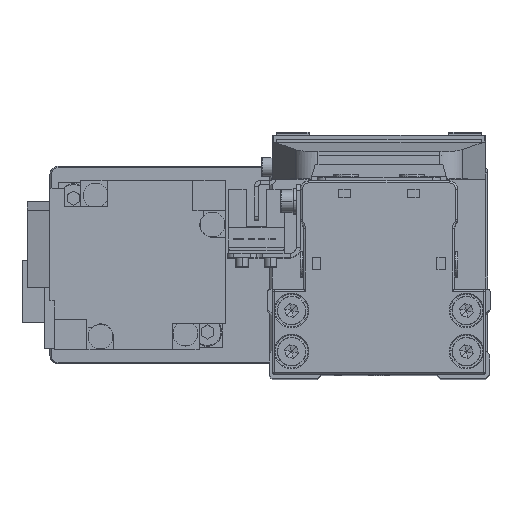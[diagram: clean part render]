
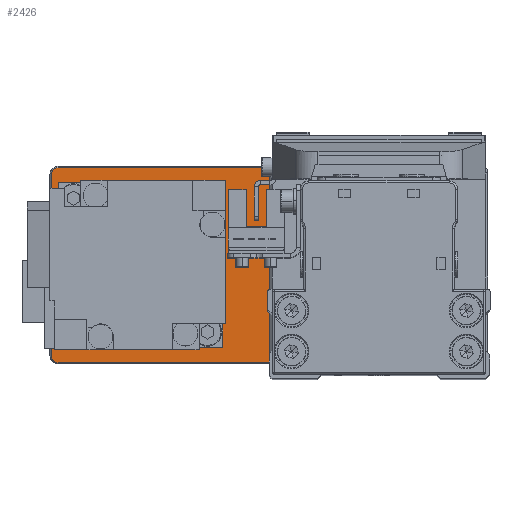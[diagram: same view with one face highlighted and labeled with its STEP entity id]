
A CAD part, top view. The second image highlights one B-rep face of the part: STEP entity #2426.
In plain terms, the highlighted planar face has unit normal (0, 0, 1).
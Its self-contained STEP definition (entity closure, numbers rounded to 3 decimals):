
#131 = EDGE_CURVE ( 'NONE', #10204, #9096, #23579, .T. ) ;
#446 = CARTESIAN_POINT ( 'NONE',  ( 30., 0., 5. ) ) ;
#664 = ORIENTED_EDGE ( 'NONE', *, *, #13674, .T. ) ;
#1184 = CARTESIAN_POINT ( 'NONE',  ( 50., 23.7, 5. ) ) ;
#1401 = DIRECTION ( 'NONE',  ( 1., 0., 0. ) ) ;
#1427 = VECTOR ( 'NONE', #16038, 1000. ) ;
#1575 = CARTESIAN_POINT ( 'NONE',  ( -50., -23.7, 5. ) ) ;
#1641 = CIRCLE ( 'NONE', #24034, 1.7 ) ;
#2347 = DIRECTION ( 'NONE',  ( 1., 0., 0. ) ) ;
#2426 = ADVANCED_FACE ( 'NONE', ( #8325, #20592, #32805 ), #5342, .T. ) ;
#2896 = DIRECTION ( 'NONE',  ( 1., 0., 0. ) ) ;
#3422 = CARTESIAN_POINT ( 'NONE',  ( -50., 23.7, 5. ) ) ;
#3805 = CARTESIAN_POINT ( 'NONE',  ( -51.7, -22., 5. ) ) ;
#4648 = CIRCLE ( 'NONE', #27067, 12.8 ) ;
#5342 = PLANE ( 'NONE',  #31360 ) ;
#5449 = VERTEX_POINT ( 'NONE', #14776 ) ;
#5505 = DIRECTION ( 'NONE',  ( 1., 0., 0. ) ) ;
#5538 = EDGE_CURVE ( 'NONE', #19522, #11580, #21398, .T. ) ;
#5976 = CARTESIAN_POINT ( 'NONE',  ( 51.7, 22., 5. ) ) ;
#5981 = EDGE_CURVE ( 'NONE', #28304, #19380, #33344, .T. ) ;
#6129 = DIRECTION ( 'NONE',  ( 0., 1., 0. ) ) ;
#6762 = CARTESIAN_POINT ( 'NONE',  ( -51.7, 22., 5. ) ) ;
#7275 = CARTESIAN_POINT ( 'NONE',  ( 17.2, 0., 5. ) ) ;
#7600 = ORIENTED_EDGE ( 'NONE', *, *, #5981, .T. ) ;
#8325 = FACE_BOUND ( 'NONE', #19034, .T. ) ;
#8979 = VECTOR ( 'NONE', #6129, 1000. ) ;
#9096 = VERTEX_POINT ( 'NONE', #1575 ) ;
#9196 = VERTEX_POINT ( 'NONE', #38799 ) ;
#9212 = DIRECTION ( 'NONE',  ( 0., 0., 1. ) ) ;
#9899 = ORIENTED_EDGE ( 'NONE', *, *, #30198, .T. ) ;
#10204 = VERTEX_POINT ( 'NONE', #14891 ) ;
#10241 = DIRECTION ( 'NONE',  ( 1., 0., 0. ) ) ;
#10549 = CARTESIAN_POINT ( 'NONE',  ( 30., 0., 5. ) ) ;
#10571 = DIRECTION ( 'NONE',  ( 1., 0., 0. ) ) ;
#10620 = VECTOR ( 'NONE', #10571, 1000. ) ;
#10742 = AXIS2_PLACEMENT_3D ( 'NONE', #16596, #28841, #1401 ) ;
#10801 = EDGE_CURVE ( 'NONE', #9196, #5449, #32337, .T. ) ;
#11355 = ORIENTED_EDGE ( 'NONE', *, *, #19001, .T. ) ;
#11580 = VERTEX_POINT ( 'NONE', #5976 ) ;
#11678 = VERTEX_POINT ( 'NONE', #6762 ) ;
#12657 = DIRECTION ( 'NONE',  ( 0., 0., -1. ) ) ;
#12732 = CARTESIAN_POINT ( 'NONE',  ( -28., 0., 5. ) ) ;
#13674 = EDGE_CURVE ( 'NONE', #30482, #11678, #1641, .T. ) ;
#13754 = CARTESIAN_POINT ( 'NONE',  ( -50., 23.7, 5. ) ) ;
#14495 = EDGE_CURVE ( 'NONE', #9096, #32549, #25826, .T. ) ;
#14564 = ORIENTED_EDGE ( 'NONE', *, *, #37433, .T. ) ;
#14570 = AXIS2_PLACEMENT_3D ( 'NONE', #16287, #37685, #10241 ) ;
#14769 = VECTOR ( 'NONE', #15641, 1000. ) ;
#14776 = CARTESIAN_POINT ( 'NONE',  ( -17.7, 0., 5. ) ) ;
#14891 = CARTESIAN_POINT ( 'NONE',  ( -51.7, -22., 5. ) ) ;
#15061 = AXIS2_PLACEMENT_3D ( 'NONE', #12732, #24961, #37171 ) ;
#15627 = AXIS2_PLACEMENT_3D ( 'NONE', #36664, #9212, #21460 ) ;
#15641 = DIRECTION ( 'NONE',  ( -1., 0., 0. ) ) ;
#16038 = DIRECTION ( 'NONE',  ( 0., -1., 0. ) ) ;
#16071 = AXIS2_PLACEMENT_3D ( 'NONE', #446, #12657, #24877 ) ;
#16287 = CARTESIAN_POINT ( 'NONE',  ( 50., -22., 5. ) ) ;
#16596 = CARTESIAN_POINT ( 'NONE',  ( -28., 0., 5. ) ) ;
#17575 = CARTESIAN_POINT ( 'NONE',  ( 0., 0., 5. ) ) ;
#18143 = CARTESIAN_POINT ( 'NONE',  ( -50., 22., 5. ) ) ;
#18689 = EDGE_LOOP ( 'NONE', ( #36312, #11355, #24198, #9899, #36352, #664, #20338, #31764 ) ) ;
#19001 = EDGE_CURVE ( 'NONE', #32549, #19522, #31829, .T. ) ;
#19034 = EDGE_LOOP ( 'NONE', ( #14564, #7600 ) ) ;
#19049 = CARTESIAN_POINT ( 'NONE',  ( 42.8, 0., 5. ) ) ;
#19380 = VERTEX_POINT ( 'NONE', #19049 ) ;
#19494 = EDGE_CURVE ( 'NONE', #5449, #9196, #28032, .T. ) ;
#19522 = VERTEX_POINT ( 'NONE', #35238 ) ;
#20338 = ORIENTED_EDGE ( 'NONE', *, *, #36847, .T. ) ;
#20592 = FACE_BOUND ( 'NONE', #33764, .T. ) ;
#20769 = CARTESIAN_POINT ( 'NONE',  ( -50., -22., 5. ) ) ;
#21398 = LINE ( 'NONE', #33607, #8979 ) ;
#21460 = DIRECTION ( 'NONE',  ( 1., 0., 0. ) ) ;
#22806 = DIRECTION ( 'NONE',  ( 0., 0., -1. ) ) ;
#23579 = CIRCLE ( 'NONE', #24227, 1.7 ) ;
#23774 = EDGE_CURVE ( 'NONE', #23908, #30482, #30868, .T. ) ;
#23908 = VERTEX_POINT ( 'NONE', #1184 ) ;
#24034 = AXIS2_PLACEMENT_3D ( 'NONE', #18143, #30351, #2896 ) ;
#24198 = ORIENTED_EDGE ( 'NONE', *, *, #5538, .T. ) ;
#24227 = AXIS2_PLACEMENT_3D ( 'NONE', #20769, #32979, #5505 ) ;
#24877 = DIRECTION ( 'NONE',  ( 1., 0., 0. ) ) ;
#24961 = DIRECTION ( 'NONE',  ( 0., 0., -1. ) ) ;
#25207 = ORIENTED_EDGE ( 'NONE', *, *, #19494, .T. ) ;
#25826 = LINE ( 'NONE', #38022, #10620 ) ;
#27067 = AXIS2_PLACEMENT_3D ( 'NONE', #10549, #22806, #34999 ) ;
#28032 = CIRCLE ( 'NONE', #10742, 10.3 ) ;
#28304 = VERTEX_POINT ( 'NONE', #7275 ) ;
#28841 = DIRECTION ( 'NONE',  ( 0., 0., -1. ) ) ;
#29792 = DIRECTION ( 'NONE',  ( 0., 0., 1. ) ) ;
#30198 = EDGE_CURVE ( 'NONE', #11580, #23908, #32908, .T. ) ;
#30351 = DIRECTION ( 'NONE',  ( 0., 0., 1. ) ) ;
#30482 = VERTEX_POINT ( 'NONE', #13754 ) ;
#30868 = LINE ( 'NONE', #3422, #14769 ) ;
#31123 = CARTESIAN_POINT ( 'NONE',  ( 50., -23.7, 5. ) ) ;
#31262 = LINE ( 'NONE', #3805, #1427 ) ;
#31360 = AXIS2_PLACEMENT_3D ( 'NONE', #17575, #29792, #2347 ) ;
#31764 = ORIENTED_EDGE ( 'NONE', *, *, #131, .T. ) ;
#31829 = CIRCLE ( 'NONE', #14570, 1.7 ) ;
#32337 = CIRCLE ( 'NONE', #15061, 10.3 ) ;
#32549 = VERTEX_POINT ( 'NONE', #31123 ) ;
#32805 = FACE_OUTER_BOUND ( 'NONE', #18689, .T. ) ;
#32908 = CIRCLE ( 'NONE', #15627, 1.7 ) ;
#32979 = DIRECTION ( 'NONE',  ( 0., 0., 1. ) ) ;
#33344 = CIRCLE ( 'NONE', #16071, 12.8 ) ;
#33607 = CARTESIAN_POINT ( 'NONE',  ( 51.7, 22., 5. ) ) ;
#33764 = EDGE_LOOP ( 'NONE', ( #25207, #35033 ) ) ;
#34999 = DIRECTION ( 'NONE',  ( 1., 0., 0. ) ) ;
#35033 = ORIENTED_EDGE ( 'NONE', *, *, #10801, .T. ) ;
#35238 = CARTESIAN_POINT ( 'NONE',  ( 51.7, -22., 5. ) ) ;
#36312 = ORIENTED_EDGE ( 'NONE', *, *, #14495, .T. ) ;
#36352 = ORIENTED_EDGE ( 'NONE', *, *, #23774, .T. ) ;
#36664 = CARTESIAN_POINT ( 'NONE',  ( 50., 22., 5. ) ) ;
#36847 = EDGE_CURVE ( 'NONE', #11678, #10204, #31262, .T. ) ;
#37171 = DIRECTION ( 'NONE',  ( 1., 0., 0. ) ) ;
#37433 = EDGE_CURVE ( 'NONE', #19380, #28304, #4648, .T. ) ;
#37685 = DIRECTION ( 'NONE',  ( 0., 0., 1. ) ) ;
#38022 = CARTESIAN_POINT ( 'NONE',  ( 50., -23.7, 5. ) ) ;
#38799 = CARTESIAN_POINT ( 'NONE',  ( -38.3, 0., 5. ) ) ;
